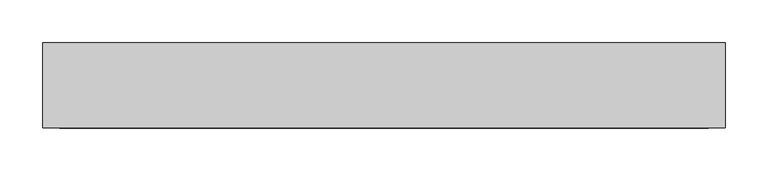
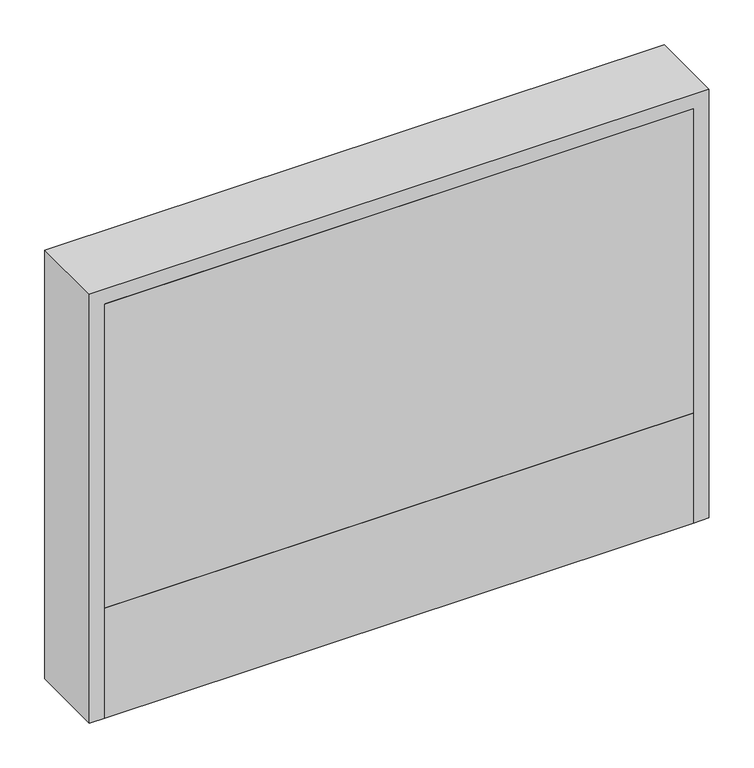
"""IFC4 building model written with IfcOpenShell, lengths in millimetres: valve geometry, PL CZ.HU Cabinet above plaster : SF-WEK2 6-10 manifold loops."""

from ifc_helpers import new_model, si_unit, frame, origin, origin_with_axes, place, context, project, spatial, polyline, outline, extrude, source, transform, mapped, element, save


def valve_02f17e8c(model_context):
    return source(origin(), model_context, "Body", "SweptSolid", [
        extrude(outline(polyline([(380.0, 0.0), (-380.0, 0.0), (-380.0, 100.0), (380.0, 100.0), (380.0, 0.0)])), origin_with_axes(), (0.0, 0.0, 1.0), 150.0),
        extrude(outline(polyline([(380.0, 0.0), (-380.0, 0.0), (-380.0, 100.0), (380.0, 100.0), (380.0, 0.0)])), frame((0.0, 0.0, 150.0), z_axis=(0.0, 0.0, 1.0), x_axis=(1.0, 0.0, 0.0)), (0.0, 0.0, 1.0), 415.0),
        extrude(outline(polyline([(585.0, 400.0), (585.0, -400.0), (0.0, -400.0), (0.0, -380.0), (565.0, -380.0), (565.0, 380.0), (0.0, 380.0), (0.0, 400.0), (585.0, 400.0)])), frame((0.0, 0.0, 0.0), z_axis=(0.0, 1.0, 0.0), x_axis=(0.0, 0.0, 1.0)), (0.0, 0.0, 1.0), 100.0),
    ])


if __name__ == "__main__":
    model = new_model("IFC4")
    model_context = context("Model", 3, world=origin())
    ifc_project = project(units=[si_unit("LENGTHUNIT", "METRE", prefix="MILLI")], contexts=[model_context])
    site = spatial("IfcSite", under=ifc_project)
    building = spatial("IfcBuilding", under=site)
    placement = place(None, origin())
    valve_shape = valve_02f17e8c(model_context)
    element("IfcValve", 1, ObjectType="PL CZ.HU Cabinet above plaster : SF-WEK2 6-10 manifold loops", at=placement, inside=building, context=model_context, shape_type="MappedRepresentation", body=[
        mapped(valve_shape, transform((0.0, 0.0, 0.0), x_axis=(1.0, 0.0, 0.0), y_axis=(0.0, 1.0, 0.0), z_axis=(0.0, 0.0, 1.0))),
    ])
    save(model, "model.ifc")
